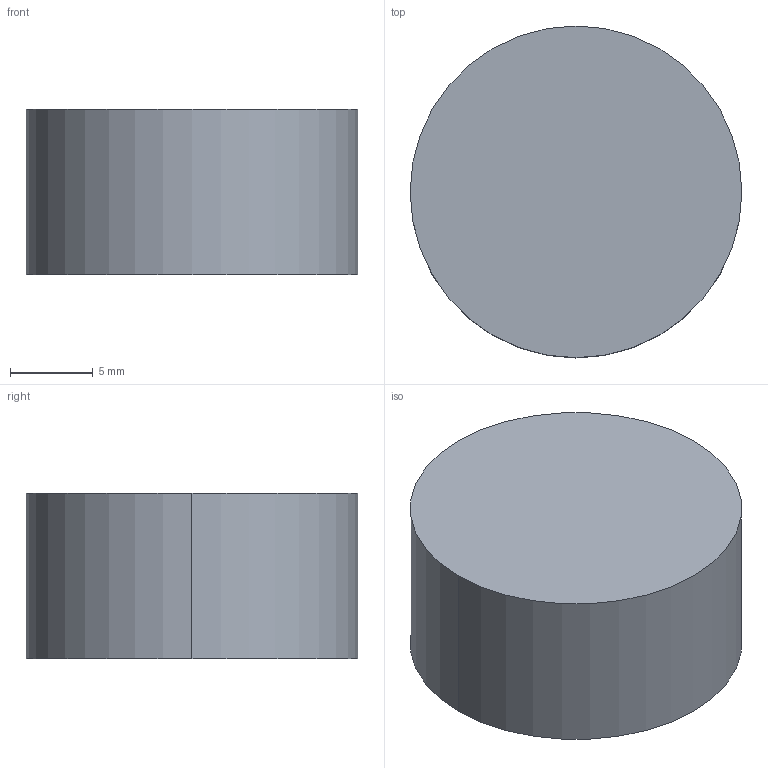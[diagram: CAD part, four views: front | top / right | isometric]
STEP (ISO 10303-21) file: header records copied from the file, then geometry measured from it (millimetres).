
FILE_DESCRIPTION (( 'STEP AP203' ), '1' );
FILE_NAME ('drp-200.STEP', '2021-10-21T07:52:54', ( '' ), ( '' ), 'SwSTEP 2.0', 'SolidWorks 2020', '' );
FILE_SCHEMA (( 'CONFIG_CONTROL_DESIGN' ));
Length unit declared in the file: millimetre
Products named in the file (1): drp-200
Bounding box: 20 x 20 x 10 mm (x, y, z)
Volume: 3000.2 mm3; surface area: 1350.9 mm2
Topology: 1 solids, 1 shells, 7 faces, 12 edges, 8 vertices
Faces by surface type: cylinder 4, plane 3
Entity records: 251 total; most frequent: DIRECTION 36, CARTESIAN_POINT 28, ORIENTED_EDGE 24, AXIS2_PLACEMENT_3D 16, EDGE_CURVE 12, CIRCLE 8, PERSON_AND_ORGANIZATION 8, EDGE_LOOP 8
